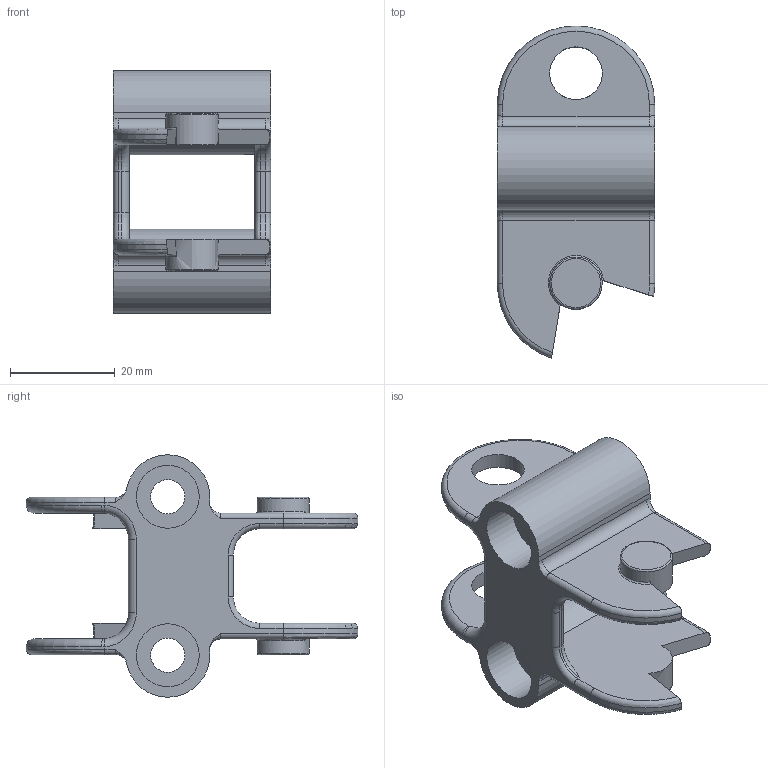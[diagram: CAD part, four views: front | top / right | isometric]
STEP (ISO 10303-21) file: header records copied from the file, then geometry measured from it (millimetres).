
FILE_DESCRIPTION((''),'2;1');
FILE_NAME('C:\Uebbing\PARAMETERKETTEN\KOLIBRI\Kol_30_030_3\Kol_30_030_3 K Anschluss.stp','2011-11-02T11:28:15',('Uebbing'),(''),'Autodesk Inventor 10','Autodesk Inventor 10','');
FILE_SCHEMA(('AUTOMOTIVE_DESIGN { 1 0 10303 214 1 1 1 1 }'));
Length unit declared in the file: millimetre
Products named in the file (1): Kol_30_030_3 K Anschluss
Bounding box: 30 x 63.23 x 46.2 mm (x, y, z)
Volume: 16909.9 mm3; surface area: 11434.6 mm2
Topology: 1 solids, 1 shells, 137 faces, 369 edges, 236 vertices
Faces by surface type: bspline 44, cylinder 41, plane 30, torus 22
Full cylindrical faces by diameter (mm): 6.5 x2, 9.95 x1, 10.05 x1, 12 x4
Entity records: 8029 total; most frequent: CARTESIAN_POINT 4809, ORIENTED_EDGE 696, DIRECTION 628, EDGE_CURVE 348, AXIS2_PLACEMENT_3D 257, VERTEX_POINT 228, EDGE_LOOP 160, CIRCLE 144
